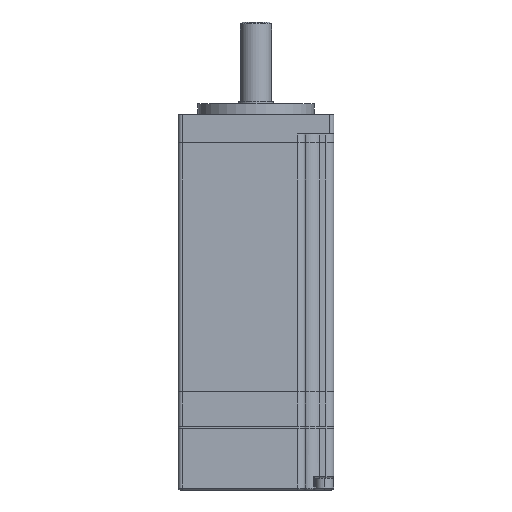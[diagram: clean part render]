
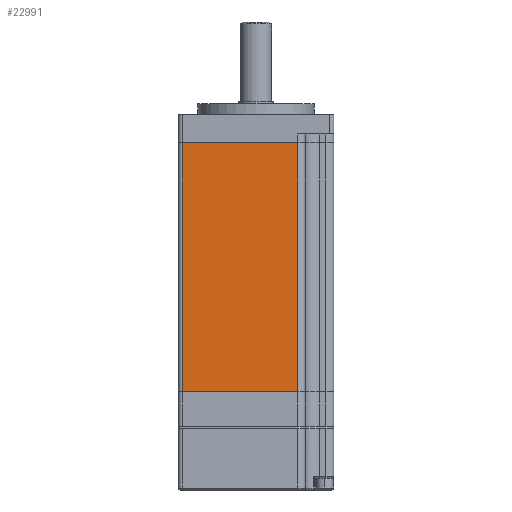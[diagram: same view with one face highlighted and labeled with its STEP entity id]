
A CAD part, front view. The second image highlights one B-rep face of the part: STEP entity #22991.
In plain terms, the highlighted planar face has unit normal (0, -1, 0).
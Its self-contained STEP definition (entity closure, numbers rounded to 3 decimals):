
#361 = LINE ( 'NONE', #11526, #14355 ) ;
#1332 = DIRECTION ( 'NONE',  ( 0., 0., 1. ) ) ;
#1849 = LINE ( 'NONE', #3494, #21423 ) ;
#2278 = ORIENTED_EDGE ( 'NONE', *, *, #20688, .T. ) ;
#2281 = ORIENTED_EDGE ( 'NONE', *, *, #25539, .T. ) ;
#2381 = VECTOR ( 'NONE', #9505, 1000. ) ;
#3494 = CARTESIAN_POINT ( 'NONE',  ( -19., -20., -34. ) ) ;
#3601 = VERTEX_POINT ( 'NONE', #18061 ) ;
#4589 = DIRECTION ( 'NONE',  ( 0., 0., -1. ) ) ;
#4827 = DIRECTION ( 'NONE',  ( -1., 0., 0. ) ) ;
#6065 = FACE_OUTER_BOUND ( 'NONE', #17721, .T. ) ;
#6364 = EDGE_CURVE ( 'NONE', #3601, #14745, #23822, .T. ) ;
#7251 = DIRECTION ( 'NONE',  ( 0., 0., -1. ) ) ;
#7339 = VECTOR ( 'NONE', #4827, 1000. ) ;
#7451 = CARTESIAN_POINT ( 'NONE',  ( -20., -20., 32. ) ) ;
#8327 = CARTESIAN_POINT ( 'NONE',  ( -19., -20., -32. ) ) ;
#8518 = CARTESIAN_POINT ( 'NONE',  ( -20., -20., -32. ) ) ;
#8717 = CARTESIAN_POINT ( 'NONE',  ( -20., -20., -34. ) ) ;
#9505 = DIRECTION ( 'NONE',  ( 1., 0., 0. ) ) ;
#11526 = CARTESIAN_POINT ( 'NONE',  ( 10.7, -20., -34. ) ) ;
#12068 = CARTESIAN_POINT ( 'NONE',  ( 10.7, -20., 32. ) ) ;
#12538 = PLANE ( 'NONE',  #22052 ) ;
#14355 = VECTOR ( 'NONE', #1332, 1000. ) ;
#14745 = VERTEX_POINT ( 'NONE', #8327 ) ;
#15616 = CARTESIAN_POINT ( 'NONE',  ( -19., -20., 32. ) ) ;
#16511 = DIRECTION ( 'NONE',  ( 0., -1., 0. ) ) ;
#17721 = EDGE_LOOP ( 'NONE', ( #25491, #2278, #20754, #2281 ) ) ;
#18061 = CARTESIAN_POINT ( 'NONE',  ( 10.7, -20., -32. ) ) ;
#18581 = LINE ( 'NONE', #7451, #2381 ) ;
#20688 = EDGE_CURVE ( 'NONE', #24958, #14745, #1849, .T. ) ;
#20754 = ORIENTED_EDGE ( 'NONE', *, *, #6364, .F. ) ;
#21423 = VECTOR ( 'NONE', #7251, 1000. ) ;
#21948 = EDGE_CURVE ( 'NONE', #24958, #23852, #18581, .T. ) ;
#22052 = AXIS2_PLACEMENT_3D ( 'NONE', #8717, #16511, #4589 ) ;
#22991 = ADVANCED_FACE ( 'NONE', ( #6065 ), #12538, .T. ) ;
#23822 = LINE ( 'NONE', #8518, #7339 ) ;
#23852 = VERTEX_POINT ( 'NONE', #12068 ) ;
#24958 = VERTEX_POINT ( 'NONE', #15616 ) ;
#25491 = ORIENTED_EDGE ( 'NONE', *, *, #21948, .F. ) ;
#25539 = EDGE_CURVE ( 'NONE', #3601, #23852, #361, .T. ) ;
